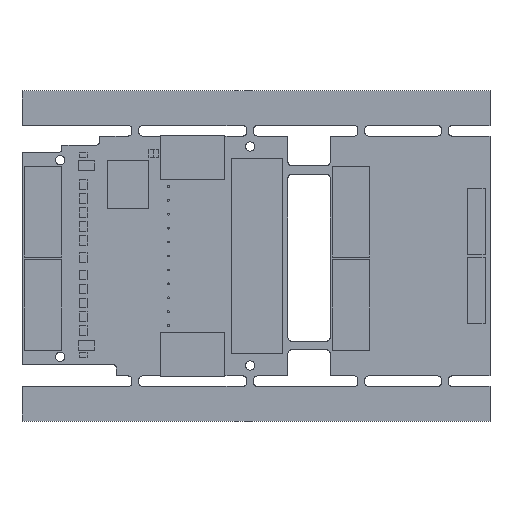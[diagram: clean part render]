
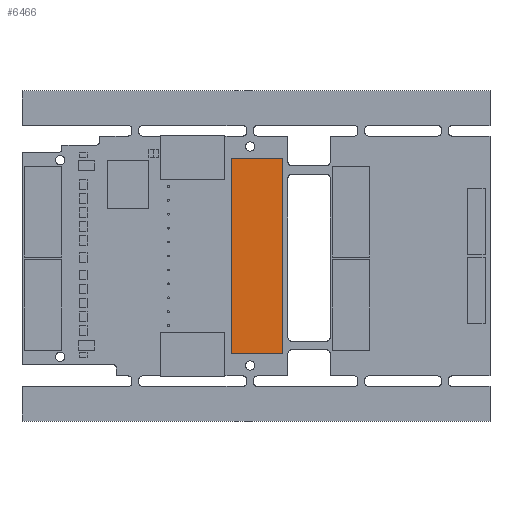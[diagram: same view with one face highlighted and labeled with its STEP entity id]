
A CAD part, top view. The second image highlights one B-rep face of the part: STEP entity #6466.
In plain terms, the highlighted planar face has unit normal (0, 0, 1).
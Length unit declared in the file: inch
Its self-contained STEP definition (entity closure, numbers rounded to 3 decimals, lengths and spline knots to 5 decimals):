
#823=PLANE('',#7375);
#1152=FACE_OUTER_BOUND('',#1927,.T.);
#1927=EDGE_LOOP('',(#5746,#5747,#5748,#5749));
#2238=LINE('',#10841,#2623);
#2241=LINE('',#10847,#2626);
#2244=LINE('',#10853,#2629);
#2247=LINE('',#10857,#2632);
#2623=VECTOR('',#9028,0.3937);
#2626=VECTOR('',#9033,0.3937);
#2629=VECTOR('',#9038,0.3937);
#2632=VECTOR('',#9043,0.3937);
#3647=VERTEX_POINT('',#10838);
#3648=VERTEX_POINT('',#10840);
#3650=VERTEX_POINT('',#10846);
#3652=VERTEX_POINT('',#10852);
#4358=EDGE_CURVE('',#3648,#3647,#2238,.T.);
#4361=EDGE_CURVE('',#3650,#3648,#2241,.T.);
#4364=EDGE_CURVE('',#3652,#3650,#2244,.T.);
#4367=EDGE_CURVE('',#3647,#3652,#2247,.T.);
#5746=ORIENTED_EDGE('',*,*,#4367,.T.);
#5747=ORIENTED_EDGE('',*,*,#4364,.T.);
#5748=ORIENTED_EDGE('',*,*,#4361,.T.);
#5749=ORIENTED_EDGE('',*,*,#4358,.T.);
#6466=ADVANCED_FACE('',(#1152),#823,.T.);
#7375=AXIS2_PLACEMENT_3D('',#10858,#9044,#9045);
#9028=DIRECTION('',(-1.,0.,0.));
#9033=DIRECTION('',(0.,1.,0.));
#9038=DIRECTION('',(1.,0.,0.));
#9043=DIRECTION('',(0.,-1.,0.));
#9044=DIRECTION('center_axis',(0.,0.,1.));
#9045=DIRECTION('ref_axis',(1.,0.,0.));
#10838=CARTESIAN_POINT('',(-1.10669,0.28898,0.27992));
#10840=CARTESIAN_POINT('',(1.10748,0.28898,0.27992));
#10841=CARTESIAN_POINT('',(1.10748,0.28898,0.27992));
#10846=CARTESIAN_POINT('',(1.10748,-0.28858,0.27992));
#10847=CARTESIAN_POINT('',(1.10748,-0.28858,0.27992));
#10852=CARTESIAN_POINT('',(-1.10669,-0.28858,0.27992));
#10853=CARTESIAN_POINT('',(-1.10669,-0.28858,0.27992));
#10857=CARTESIAN_POINT('',(-1.10669,0.28898,0.27992));
#10858=CARTESIAN_POINT('Origin',(0.00039,0.0002,
0.27992));
